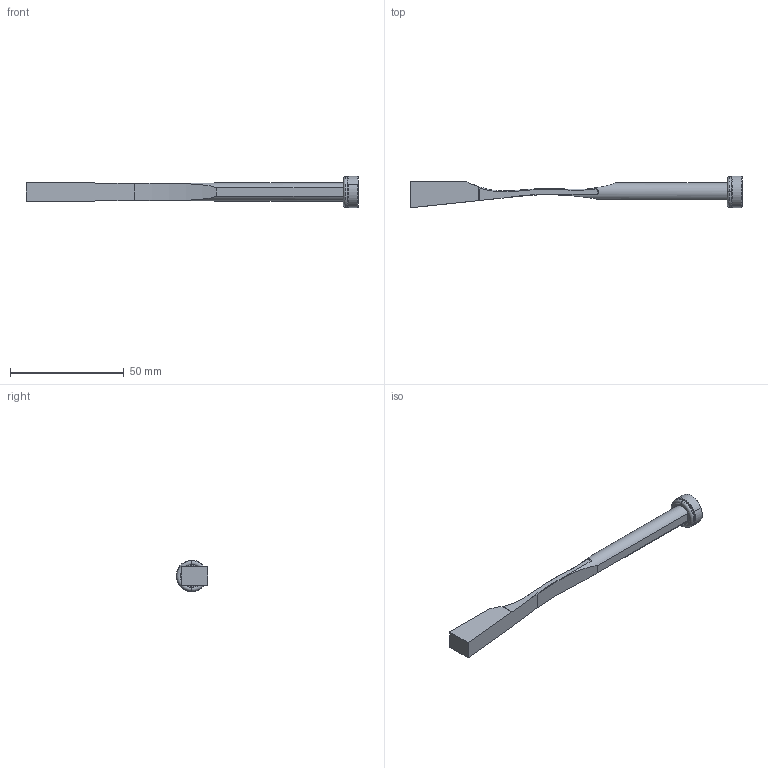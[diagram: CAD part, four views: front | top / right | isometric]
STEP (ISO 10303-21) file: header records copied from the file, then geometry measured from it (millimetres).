
FILE_DESCRIPTION (( 'STEP AP214' ), '1' );
FILE_NAME ('PW080825-Tancada.STEP', '2020-02-10T08:43:49', ( '' ), ( '' ), 'SwSTEP 2.0', 'SolidWorks 2018', '' );
FILE_SCHEMA (( 'AUTOMOTIVE_DESIGN' ));
Length unit declared in the file: millimetre
Products named in the file (5): 3JT9.5X2X13.5; 9PW080825 TANCADA; 1DIN7984516_DIN 7984 - M5 x 16 --- 16C; 9FP1406M5; PW080825-Tancada
Assembly tree (4 placements, depth 2):
  PW080825-Tancada
    9PW080825 TANCADA
    9FP1406M5
    1DIN7984516_DIN 7984 - M5 x 16 --- 16C
    3JT9.5X2X13.5
Bounding box: 146 x 13.9 x 13.8 mm (x, y, z)
Volume: 7044.9 mm3; surface area: 5623.9 mm2
Topology: 4 solids, 4 shells, 90 faces, 207 edges, 124 vertices
Faces by surface type: plane 32, cylinder 20, cone 16, torus 16, bspline 6
Entity records: 3121 total; most frequent: CARTESIAN_POINT 848, DIRECTION 433, ORIENTED_EDGE 406, EDGE_CURVE 203, AXIS2_PLACEMENT_3D 177, VERTEX_POINT 124, EDGE_LOOP 97, ADVANCED_FACE 90
